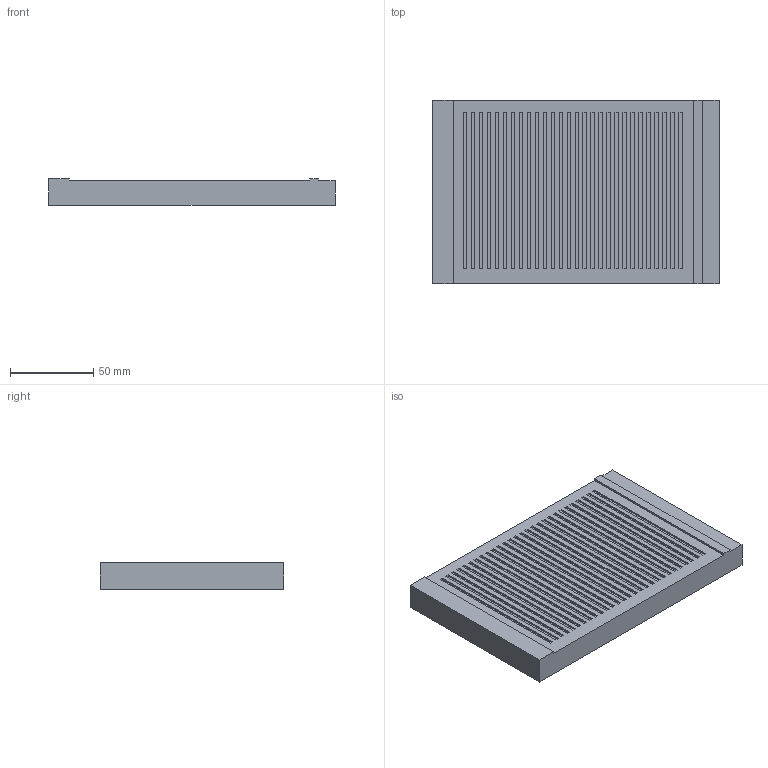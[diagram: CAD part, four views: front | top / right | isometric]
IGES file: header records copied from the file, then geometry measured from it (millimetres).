
Start section:  PTC IGES file: j4-700-frontcover.igs
Global section: file name: j4-700-frontcover.igs; native system: Pro/ENGINEER by Parametric Technology Corporation; preprocessor: 2010160; author: CV86875; organization: Unknown; date: 20121031.194043; units: millimetre
Bounding box: 172 x 110 x 16.2 mm (x, y, z)
Volume: 56469.8 mm3; surface area: 54916.9 mm2
Topology: 1 solids, 1 shells, 156 faces, 378 edges, 252 vertices
Faces by surface type: bspline 156
